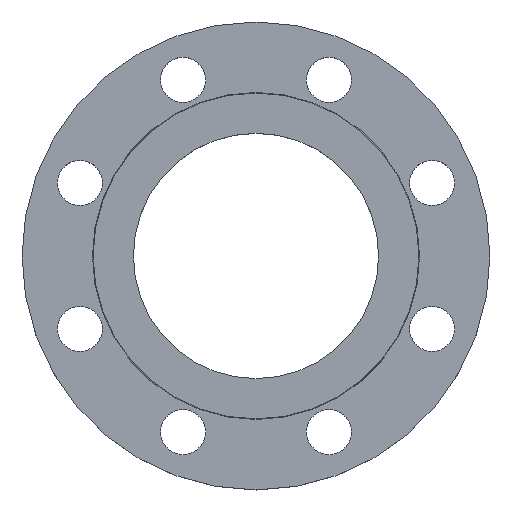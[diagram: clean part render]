
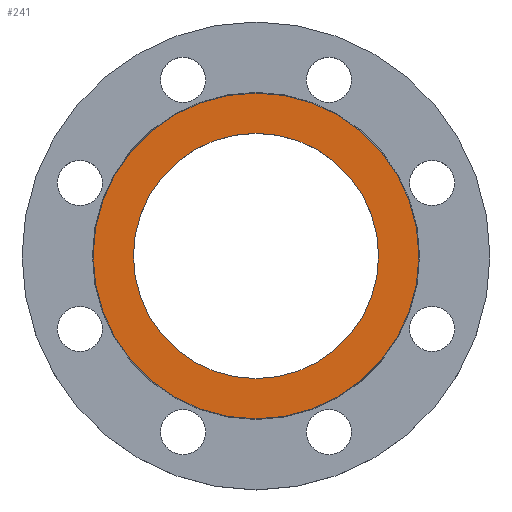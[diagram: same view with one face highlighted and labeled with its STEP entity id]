
A CAD part, top view. The second image highlights one B-rep face of the part: STEP entity #241.
In plain terms, the highlighted planar face has unit normal (0, 0, 1).
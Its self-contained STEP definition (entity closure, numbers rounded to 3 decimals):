
#42 = CIRCLE ( 'NONE', #828, 94. ) ;
#59 = DIRECTION ( 'NONE',  ( 0., 0., 1. ) ) ;
#74 = AXIS2_PLACEMENT_3D ( 'NONE', #882, #274, #548 ) ;
#78 = DIRECTION ( 'NONE',  ( 0., 0., -1. ) ) ;
#99 = CARTESIAN_POINT ( 'NONE',  ( 94., 0., 0. ) ) ;
#125 = FACE_OUTER_BOUND ( 'NONE', #330, .T. ) ;
#149 = EDGE_CURVE ( 'NONE', #778, #295, #434, .T. ) ;
#201 = EDGE_LOOP ( 'NONE', ( #375, #785 ) ) ;
#206 = EDGE_CURVE ( 'NONE', #412, #428, #325, .T. ) ;
#241 = ADVANCED_FACE ( 'NONE', ( #753, #125 ), #413, .T. ) ;
#249 = DIRECTION ( 'NONE',  ( -1., 0., 0. ) ) ;
#262 = DIRECTION ( 'NONE',  ( -1., 0., 0. ) ) ;
#274 = DIRECTION ( 'NONE',  ( 0., 0., -1. ) ) ;
#295 = VERTEX_POINT ( 'NONE', #831 ) ;
#325 = CIRCLE ( 'NONE', #721, 70.75 ) ;
#330 = EDGE_LOOP ( 'NONE', ( #618, #717 ) ) ;
#343 = DIRECTION ( 'NONE',  ( 1., 0., 0. ) ) ;
#362 = DIRECTION ( 'NONE',  ( -1., 0., 0. ) ) ;
#375 = ORIENTED_EDGE ( 'NONE', *, *, #206, .T. ) ;
#400 = AXIS2_PLACEMENT_3D ( 'NONE', #594, #861, #249 ) ;
#412 = VERTEX_POINT ( 'NONE', #620 ) ;
#413 = PLANE ( 'NONE',  #649 ) ;
#415 = EDGE_CURVE ( 'NONE', #428, #412, #580, .T. ) ;
#428 = VERTEX_POINT ( 'NONE', #759 ) ;
#434 = CIRCLE ( 'NONE', #400, 94. ) ;
#495 = EDGE_CURVE ( 'NONE', #295, #778, #42, .T. ) ;
#548 = DIRECTION ( 'NONE',  ( -1., 0., 0. ) ) ;
#580 = CIRCLE ( 'NONE', #74, 70.75 ) ;
#594 = CARTESIAN_POINT ( 'NONE',  ( 0., 0., 0. ) ) ;
#607 = CARTESIAN_POINT ( 'NONE',  ( 0., 0., 0. ) ) ;
#618 = ORIENTED_EDGE ( 'NONE', *, *, #495, .F. ) ;
#620 = CARTESIAN_POINT ( 'NONE',  ( -70.75, 0., 0. ) ) ;
#649 = AXIS2_PLACEMENT_3D ( 'NONE', #691, #59, #343 ) ;
#691 = CARTESIAN_POINT ( 'NONE',  ( 0., 0., 0. ) ) ;
#711 = CARTESIAN_POINT ( 'NONE',  ( 0., 0., 0. ) ) ;
#717 = ORIENTED_EDGE ( 'NONE', *, *, #149, .F. ) ;
#721 = AXIS2_PLACEMENT_3D ( 'NONE', #607, #871, #262 ) ;
#753 = FACE_BOUND ( 'NONE', #201, .T. ) ;
#759 = CARTESIAN_POINT ( 'NONE',  ( 70.75, 0., 0. ) ) ;
#778 = VERTEX_POINT ( 'NONE', #99 ) ;
#785 = ORIENTED_EDGE ( 'NONE', *, *, #415, .T. ) ;
#828 = AXIS2_PLACEMENT_3D ( 'NONE', #711, #78, #362 ) ;
#831 = CARTESIAN_POINT ( 'NONE',  ( -94., 0., 0. ) ) ;
#861 = DIRECTION ( 'NONE',  ( 0., 0., -1. ) ) ;
#871 = DIRECTION ( 'NONE',  ( 0., 0., -1. ) ) ;
#882 = CARTESIAN_POINT ( 'NONE',  ( 0., 0., 0. ) ) ;
